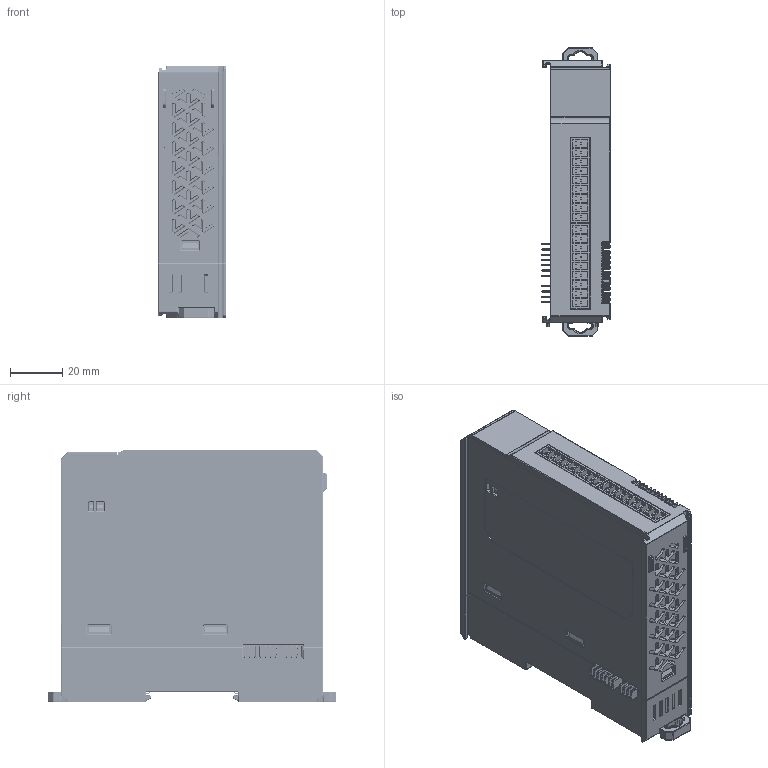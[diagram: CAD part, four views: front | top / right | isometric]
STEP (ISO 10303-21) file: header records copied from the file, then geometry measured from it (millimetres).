
FILE_DESCRIPTION((''),'2;1');
FILE_NAME('PM16DX-A0_ASM_26_ASM','2022-04-26T15:45:03',('Lenovo'),(''),'CREO PARAMETRIC BY PTC INC, 2020033','CREO PARAMETRIC BY PTC INC, 2020033','');
FILE_SCHEMA(('CONFIG_CONTROL_DESIGN'));
Products named in the file (24): PM16DX-A0-COVER_7; PM16DX-A0-BASE_3; KAKOU-LIANJIEJIAN_2; KAKOU_5; KAKOU-JIEDIPIAN_3; KAKOU_ASM_6_ASM; PM16DX-A0-DGZ_4; PM16DX-A0-JINGPIAN_3; PM16DX-A0-PCB02_7; PM02PS-A0-JIEDIPIAN_2; CONNECTOR-A_1; CONNECTOR-PIN-IDE-0_3; CONNECTOR-M_12; PM16DX-A0-PCB02_ASM_12_ASM; PM16DX-A0-PCB01_5; 15EDGRC-3-5-XXP-1Y-00A-9PIN_2; CBT-0810XXF-52-14PIN_3; CONNECTOR-B_3; PM16DX-A0-PCB01_ASM_7_ASM; PM16DX-A0-PCB03_4; CBT-0810XXM-52-14PIN_2; PM16DX-A0-PCB03_ASM_3_ASM; PM16DX-A0-PCB_ASM_2_ASM; PM16DX-A0_ASM_26_ASM
Assembly tree (25 placements, depth 4):
  PM16DX-A0_ASM_26_ASM
    PM16DX-A0-COVER_7
    PM16DX-A0-BASE_3
    KAKOU-LIANJIEJIAN_2
    KAKOU_ASM_6_ASM  x2
      KAKOU_5
      KAKOU-JIEDIPIAN_3
    PM16DX-A0-DGZ_4
    PM16DX-A0-JINGPIAN_3
    PM16DX-A0-PCB_ASM_2_ASM
      PM16DX-A0-PCB02_ASM_12_ASM
        PM16DX-A0-PCB02_7
        PM02PS-A0-JIEDIPIAN_2
        CONNECTOR-A_1
        CONNECTOR-PIN-IDE-0_3
        CONNECTOR-M_12
      PM16DX-A0-PCB01_ASM_7_ASM
        PM16DX-A0-PCB01_5
        15EDGRC-3-5-XXP-1Y-00A-9PIN_2  x2
        CBT-0810XXF-52-14PIN_3
        CONNECTOR-B_3
      PM16DX-A0-PCB03_ASM_3_ASM
        PM16DX-A0-PCB03_4
        CBT-0810XXM-52-14PIN_2
Bounding box: 26.22 x 110.02 x 96.42 mm (x, y, z)
Volume: 207820.3 mm3; surface area: 120456.9 mm2
Topology: 21 solids, 22 shells, 7760 faces, 22007 edges, 14154 vertices
Faces by surface type: plane 4822, cylinder 2001, bspline 329, cone 207, sphere 190, torus 185, extrusion 26
Entity records: 239271 total; most frequent: CARTESIAN_POINT 62031, ORIENTED_EDGE 39630, DIRECTION 32590, EDGE_CURVE 19815, VECTOR 13964, LINE 13938, VERTEX_POINT 12899, AXIS2_PLACEMENT_3D 9313
